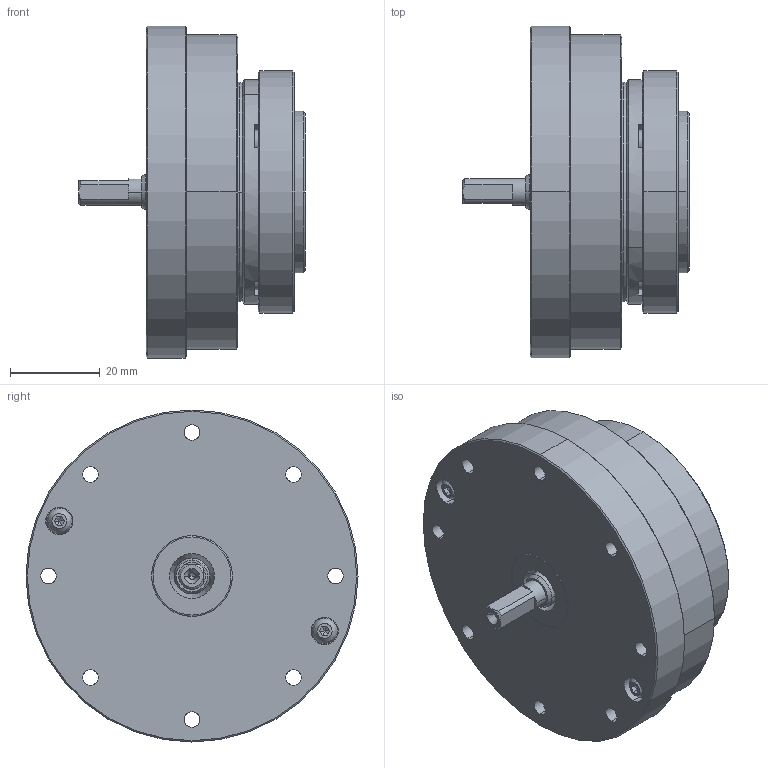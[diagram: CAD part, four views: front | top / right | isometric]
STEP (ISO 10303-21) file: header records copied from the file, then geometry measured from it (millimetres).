
FILE_DESCRIPTION (( 'STEP AP203' ), '1' );
FILE_NAME ('LHSG-14-XXX-C-IV.step', '2025-01-07T06:47:12', ( '' ), ( '' ), 'SwSTEP 2.0', 'SolidWorks 2023', '' );
FILE_SCHEMA (( 'CONFIG_CONTROL_DESIGN' ));
Length unit declared in the file: metre
Products named in the file (1): LHSG-14-XXX-C-IV
Bounding box: 50.5 x 74 x 74 mm (x, y, z)
Volume: 84131.7 mm3; surface area: 73341.7 mm2
Topology: 56 solids, 56 shells, 1400 faces, 3558 edges, 2167 vertices
Faces by surface type: cylinder 481, plane 421, bspline 287, cone 211
Entity records: 48353 total; most frequent: CARTESIAN_POINT 15839, ORIENTED_EDGE 6804, DIRECTION 6776, EDGE_CURVE 3402, AXIS2_PLACEMENT_3D 2798, VERTEX_POINT 2165, CIRCLE 1684, EDGE_LOOP 1673
